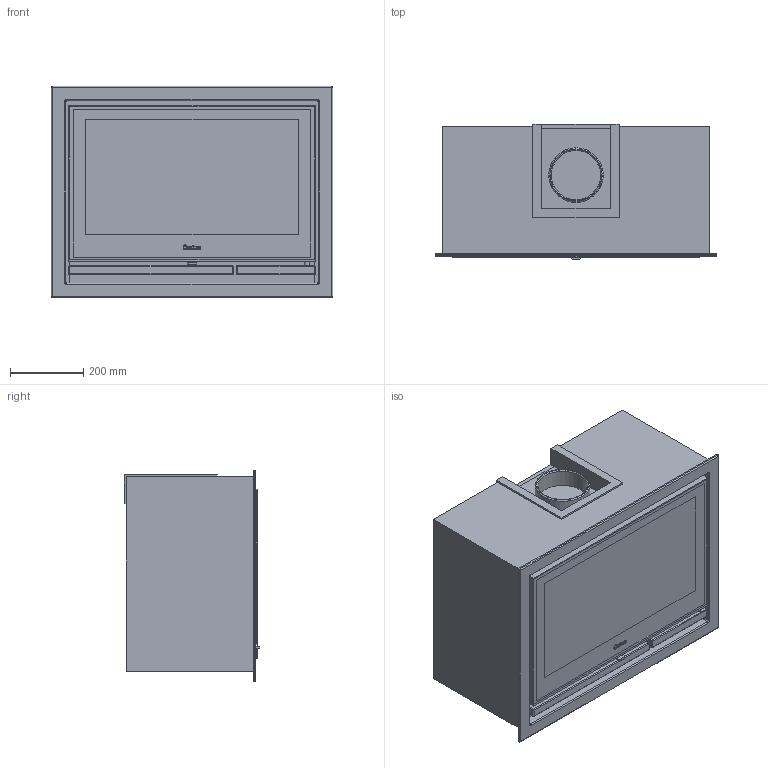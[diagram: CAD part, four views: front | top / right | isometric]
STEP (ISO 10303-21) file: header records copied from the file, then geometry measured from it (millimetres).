
FILE_DESCRIPTION(/* description */ ('Unknown','CAx-IF Rec.Pracs.---Representation and Presentation of Product Manufacturing Information (PMI)---4.0---2014-10-13','CAx-IF Rec.Pracs.---3D Tessellated Geometry---0.4---2014-09-14','2;1'),/* implementation_level */ '2;1');
FILE_NAME(/* name */ 'Ci7G Assembly',/* time_stamp */ '2016-12-29T10:39:22+01:00',/* author */ ('Unknown'),/* organization */ ('Unknown'),/* preprocessor_version */ 'ST-DEVELOPER v16.7',/* originating_system */ 'DEX',/* authorisation */ $);
FILE_SCHEMA (('AP242_MANAGED_MODEL_BASED_3D_ENGINEERING_MIM_LF { 1 0 10303 442 20130219 1 4 }'));
Length unit declared in the file: millimetre
Products named in the file (7): DSN1015791; DSN1015708; DSN1015785; DSN1015784; DSN1015711; DSN1015718; DSN1015727
Assembly tree (6 placements, depth 2):
  DSN1015791
    DSN1015708
    DSN1015785
    DSN1015784
    DSN1015711
    DSN1015718
    DSN1015727
Bounding box: 772.38 x 370.48 x 579.4 mm (x, y, z)
Volume: 107494614.7 mm3; surface area: 7597852.3 mm2
Topology: 7 solids, 7 shells, 761 faces, 1988 edges, 1318 vertices
Faces by surface type: plane 515, bspline 126, cylinder 88, sphere 18, torus 14
Full cylindrical faces by diameter (mm): 14 x1, 135.222 x1, 149.5 x1
Entity records: 28819 total; most frequent: CARTESIAN_POINT 11205, ORIENTED_EDGE 3888, DIRECTION 2928, EDGE_CURVE 1944, VERTEX_POINT 1315, LINE 1060, VECTOR 1060, AXIS2_PLACEMENT_3D 934
